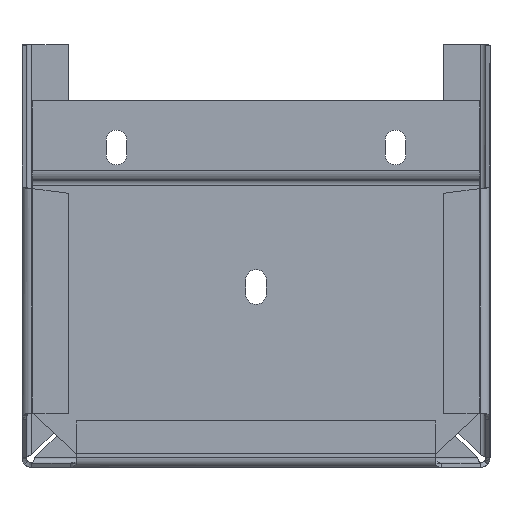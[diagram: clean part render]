
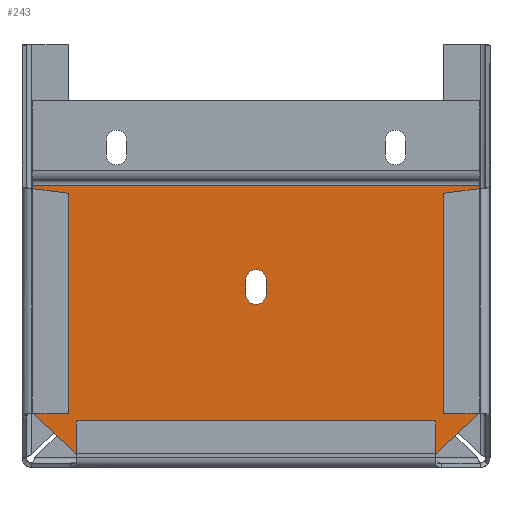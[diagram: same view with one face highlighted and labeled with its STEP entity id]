
A CAD part, front view. The second image highlights one B-rep face of the part: STEP entity #243.
In plain terms, the highlighted planar face has unit normal (0, -1, 0).
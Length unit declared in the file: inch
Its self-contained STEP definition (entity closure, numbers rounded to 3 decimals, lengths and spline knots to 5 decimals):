
#243 = ADVANCED_FACE ( 'NONE', ( #5625, #5629 ), #8975, .F. ) ;
#349 = EDGE_CURVE ( 'NONE', #3484, #3671, #5775, .T. ) ;
#360 = EDGE_CURVE ( 'NONE', #3619, #3602, #5799, .T. ) ;
#364 = EDGE_CURVE ( 'NONE', #3590, #3568, #5807, .T. ) ;
#374 = EDGE_CURVE ( 'NONE', #3525, #3568, #5825, .T. ) ;
#375 = EDGE_CURVE ( 'NONE', #3709, #3484, #5829, .T. ) ;
#376 = EDGE_CURVE ( 'NONE', #3742, #3709, #5824, .T. ) ;
#377 = EDGE_CURVE ( 'NONE', #3671, #3741, #5832, .T. ) ;
#378 = EDGE_CURVE ( 'NONE', #3590, #3540, #5815, .T. ) ;
#379 = EDGE_CURVE ( 'NONE', #3602, #3540, #5833, .T. ) ;
#380 = EDGE_CURVE ( 'NONE', #3525, #3619, #5835, .T. ) ;
#484 = EDGE_CURVE ( 'NONE', #3741, #3742, #5927, .T. ) ;
#1198 = CARTESIAN_POINT ( 'NONE',  ( 3.844, 0.141, 0.219 ) ) ;
#1200 = CARTESIAN_POINT ( 'NONE',  ( 3.625, 0.141, 0. ) ) ;
#1260 = CARTESIAN_POINT ( 'NONE',  ( 4.156, 0.141, 0.219 ) ) ;
#1308 = CARTESIAN_POINT ( 'NONE',  ( 3.844, 0.141, -0.219 ) ) ;
#1362 = CARTESIAN_POINT ( 'NONE',  ( 1.81462, 0.141, -4.812 ) ) ;
#1380 = CARTESIAN_POINT ( 'NONE',  ( 6.71, 0.141, -4.812 ) ) ;
#1392 = CARTESIAN_POINT ( 'NONE',  ( 7.59, 0.141, 3.862 ) ) ;
#1415 = CARTESIAN_POINT ( 'NONE',  ( 6.71, 0.141, 4.812 ) ) ;
#1445 = CARTESIAN_POINT ( 'NONE',  ( 7.59, 0.141, -3.862 ) ) ;
#1461 = CARTESIAN_POINT ( 'NONE',  ( 1.81462, 0.141, 4.812 ) ) ;
#1499 = CARTESIAN_POINT ( 'NONE',  ( 4.156, 0.141, -0.219 ) ) ;
#2561 = CARTESIAN_POINT ( 'NONE',  ( 6.71, 0.141, -4.812 ) ) ;
#2570 = CARTESIAN_POINT ( 'NONE',  ( 7.59, 0.141, 3.862 ) ) ;
#2575 = DIRECTION ( 'NONE',  ( -0.68, 0., 0.734 ) ) ;
#2620 = DIRECTION ( 'NONE',  ( 0., 0., -1. ) ) ;
#2651 = DIRECTION ( 'NONE',  ( -1., 0., 0. ) ) ;
#2668 = CARTESIAN_POINT ( 'NONE',  ( 1.81462, 0.141, 4.812 ) ) ;
#2670 = DIRECTION ( 'NONE',  ( 0.68, 0., 0.734 ) ) ;
#2750 = DIRECTION ( 'NONE',  ( 0., 0., -1. ) ) ;
#2751 = CARTESIAN_POINT ( 'NONE',  ( 7.59, 0.141, 4.812 ) ) ;
#2765 = DIRECTION ( 'NONE',  ( 0., 1., 0. ) ) ;
#2868 = CARTESIAN_POINT ( 'NONE',  ( 1.75, 0.141, 4.812 ) ) ;
#2891 = DIRECTION ( 'NONE',  ( 1., 0., 0. ) ) ;
#2906 = CARTESIAN_POINT ( 'NONE',  ( 4.156, 0.141, 0. ) ) ;
#2912 = CARTESIAN_POINT ( 'NONE',  ( 3.844, 0.141, 0. ) ) ;
#2921 = CARTESIAN_POINT ( 'NONE',  ( 1.75, 0.141, -0.219 ) ) ;
#2923 = DIRECTION ( 'NONE',  ( -1., 0., 0. ) ) ;
#2946 = DIRECTION ( 'NONE',  ( -1., 0., 0. ) ) ;
#2959 = DIRECTION ( 'NONE',  ( 0., 1., 0. ) ) ;
#2972 = CARTESIAN_POINT ( 'NONE',  ( 1.75, 0.141, 0.219 ) ) ;
#2973 = CARTESIAN_POINT ( 'NONE',  ( 1.75, 0.141, -4.812 ) ) ;
#2977 = DIRECTION ( 'NONE',  ( 1., 0., 0. ) ) ;
#2984 = DIRECTION ( 'NONE',  ( 1., 0., 0. ) ) ;
#3484 = VERTEX_POINT ( 'NONE', #1499 ) ;
#3525 = VERTEX_POINT ( 'NONE', #1461 ) ;
#3540 = VERTEX_POINT ( 'NONE', #1445 ) ;
#3568 = VERTEX_POINT ( 'NONE', #1415 ) ;
#3590 = VERTEX_POINT ( 'NONE', #1392 ) ;
#3602 = VERTEX_POINT ( 'NONE', #1380 ) ;
#3619 = VERTEX_POINT ( 'NONE', #1362 ) ;
#3671 = VERTEX_POINT ( 'NONE', #1308 ) ;
#3709 = VERTEX_POINT ( 'NONE', #1260 ) ;
#3741 = VERTEX_POINT ( 'NONE', #1200 ) ;
#3742 = VERTEX_POINT ( 'NONE', #1198 ) ;
#4117 = AXIS2_PLACEMENT_3D ( 'NONE', #8974, #8967, #8966 ) ;
#4150 = AXIS2_PLACEMENT_3D ( 'NONE', #2906, #2959, #2923 ) ;
#4151 = AXIS2_PLACEMENT_3D ( 'NONE', #2912, #2765, #2651 ) ;
#4160 = AXIS2_PLACEMENT_3D ( 'NONE', #10430, #10410, #10409 ) ;
#4801 = EDGE_LOOP ( 'NONE', ( #5206, #5207, #5208, #5209, #5210, #5211 ) ) ;
#4808 = EDGE_LOOP ( 'NONE', ( #5201, #5202, #5203, #5204, #5205 ) ) ;
#5201 = ORIENTED_EDGE ( 'NONE', *, *, #376, .T. ) ;
#5202 = ORIENTED_EDGE ( 'NONE', *, *, #375, .T. ) ;
#5203 = ORIENTED_EDGE ( 'NONE', *, *, #349, .T. ) ;
#5204 = ORIENTED_EDGE ( 'NONE', *, *, #377, .T. ) ;
#5205 = ORIENTED_EDGE ( 'NONE', *, *, #484, .T. ) ;
#5206 = ORIENTED_EDGE ( 'NONE', *, *, #360, .T. ) ;
#5207 = ORIENTED_EDGE ( 'NONE', *, *, #379, .T. ) ;
#5208 = ORIENTED_EDGE ( 'NONE', *, *, #378, .F. ) ;
#5209 = ORIENTED_EDGE ( 'NONE', *, *, #364, .T. ) ;
#5210 = ORIENTED_EDGE ( 'NONE', *, *, #374, .F. ) ;
#5211 = ORIENTED_EDGE ( 'NONE', *, *, #380, .T. ) ;
#5625 = FACE_BOUND ( 'NONE', #4808, .T. ) ;
#5629 = FACE_OUTER_BOUND ( 'NONE', #4801, .T. ) ;
#5775 = LINE ( 'NONE', #2921, #5780 ) ;
#5780 = VECTOR ( 'NONE', #2946, 39.37008 ) ;
#5796 = VECTOR ( 'NONE', #2984, 39.37008 ) ;
#5799 = LINE ( 'NONE', #2973, #5796 ) ;
#5806 = VECTOR ( 'NONE', #2891, 39.37008 ) ;
#5807 = LINE ( 'NONE', #2570, #5808 ) ;
#5808 = VECTOR ( 'NONE', #2575, 39.37008 ) ;
#5815 = LINE ( 'NONE', #2751, #5828 ) ;
#5823 = VECTOR ( 'NONE', #2977, 39.37008 ) ;
#5824 = LINE ( 'NONE', #2972, #5823 ) ;
#5825 = LINE ( 'NONE', #2868, #5806 ) ;
#5828 = VECTOR ( 'NONE', #2750, 39.37008 ) ;
#5829 = CIRCLE ( 'NONE', #4150, 0.219 ) ;
#5832 = CIRCLE ( 'NONE', #4151, 0.219 ) ;
#5833 = LINE ( 'NONE', #2561, #5834 ) ;
#5834 = VECTOR ( 'NONE', #2670, 39.37008 ) ;
#5835 = LINE ( 'NONE', #2668, #5836 ) ;
#5836 = VECTOR ( 'NONE', #2620, 39.37008 ) ;
#5927 = CIRCLE ( 'NONE', #4160, 0.219 ) ;
#8966 = DIRECTION ( 'NONE',  ( -1., 0., 0. ) ) ;
#8967 = DIRECTION ( 'NONE',  ( 0., 1., 0. ) ) ;
#8974 = CARTESIAN_POINT ( 'NONE',  ( 1.75, 0.141, 4.812 ) ) ;
#8975 = PLANE ( 'NONE',  #4117 ) ;
#10409 = DIRECTION ( 'NONE',  ( -1., 0., 0. ) ) ;
#10410 = DIRECTION ( 'NONE',  ( 0., 1., 0. ) ) ;
#10430 = CARTESIAN_POINT ( 'NONE',  ( 3.844, 0.141, 0. ) ) ;
